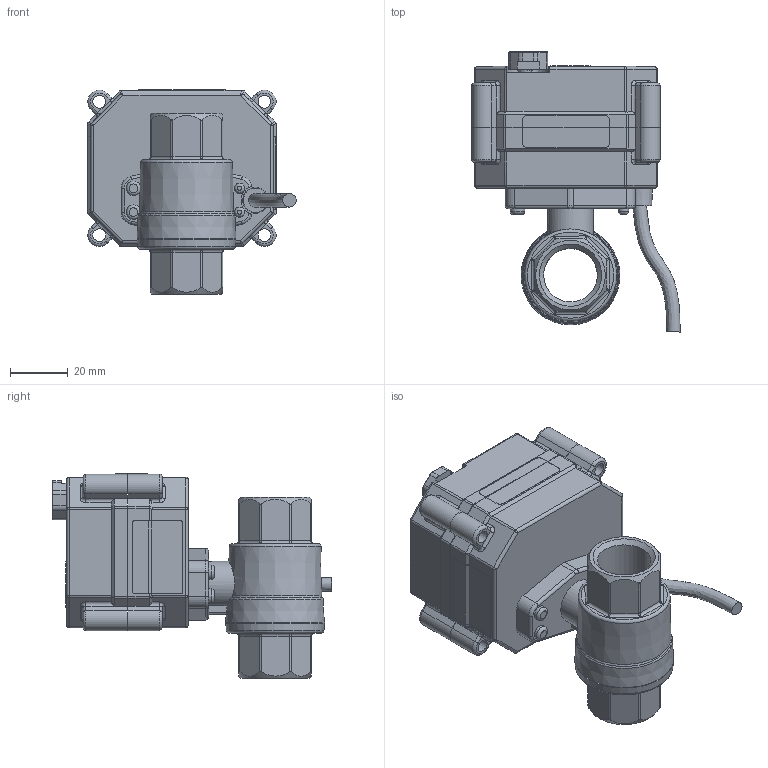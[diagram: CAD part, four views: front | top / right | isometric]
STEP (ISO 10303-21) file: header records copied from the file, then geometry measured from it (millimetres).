
FILE_DESCRIPTION(/* description */ (''),/* implementation_level */ '2;1');
FILE_NAME(/* name */ 'ZO-15.step',/* time_stamp */ '2026-02-12T13:53:37+01:00',/* author */ (''),/* organization */ (''),/* preprocessor_version */ 'ST-DEVELOPER v20.1',/* originating_system */ 'Autodesk Translation Framework v14.24.0.0',/* authorisation */ '');
FILE_SCHEMA (('AUTOMOTIVE_DESIGN { 1 0 10303 214 3 1 1 }'));
Length unit declared in the file: millimetre
Products named in the file (1): zawór odcinający wode TECH
Bounding box: 72 x 96.61 x 70.5 mm (x, y, z)
Volume: 167902.1 mm3; surface area: 37078.3 mm2
Topology: 1 solids, 1 shells, 597 faces, 1522 edges, 941 vertices
Faces by surface type: plane 221, cylinder 212, bspline 96, torus 46, sphere 16, cone 6
Full cylindrical faces by diameter (mm): 3.5 x2, 4.4 x8, 5 x2, 10.656 x1, 10.8 x1, 11.575 x1, 15.8 x1, 18.5 x1, 31.7 x1
Entity records: 19559 total; most frequent: CARTESIAN_POINT 4940, ORIENTED_EDGE 3012, DIRECTION 2857, EDGE_CURVE 1506, AXIS2_PLACEMENT_3D 1035, VERTEX_POINT 941, LINE 787, VECTOR 787
